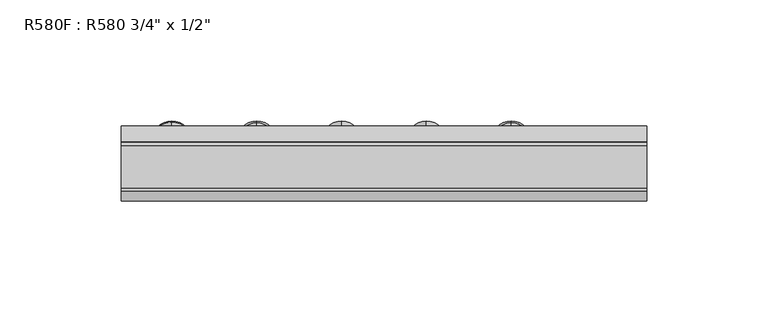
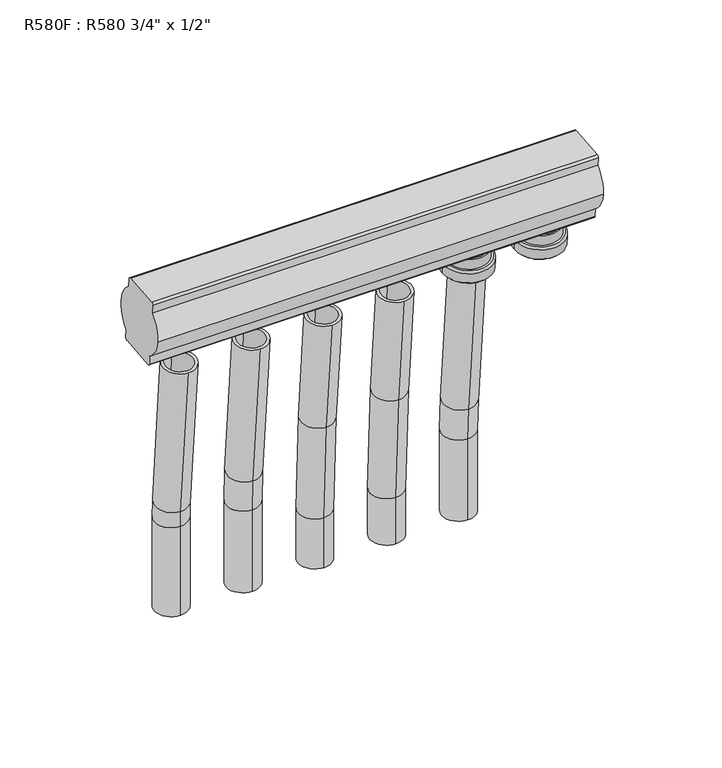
"""IFC4 building model written with IfcOpenShell, lengths in millimetres: proxy geometry."""

from ifc_helpers import new_model, si_unit, point, frame, frame_2d, origin, place, context, project, spatial, polyline, circle_curve, ellipse_curve, trimmed, segment, composite_curve, outline, extrude, source, transform, mapped, element, save
from ifc_brep_helpers import plane_surface, cylinder_surface, revolved_surface, advanced_brep


def proxy_cb0937cd(model_context):
    return source(origin(), model_context, "Body", "SolidModel", [
        advanced_brep(
        [(151.2285785, -21.3915839, 133.4969661), (129.1467712, -21.3915839, 133.4969661), (140.1876748, -21.3915839, 133.4969661), (140.1876748, -22.5299781, 146.5088716), (131.0238972, -22.5299781, 146.5088716), (149.3514525, -22.5299781, 146.5088716), (131.0238972, -22.4423573, 145.5073614), (149.3514525, -22.4423573, 145.5073614), (130.2080738, -22.4423573, 145.5073614), (150.1672759, -22.4423573, 145.5073614), (130.2080738, -21.9869138, 140.3016177), (150.1672759, -21.9869138, 140.3016177), (129.2178204, -21.9869138, 140.3016177), (151.1575293, -21.9869138, 140.3016177), (128.2669737, -21.904042, 139.3543892), (152.108376, -21.904042, 139.3543892), (128.2669737, -21.4682633, 134.3734158), (152.108376, -21.4682633, 134.3734158)],
        [
            (0, 1, circle_curve(frame((140.1876748, -21.3915839, 133.4969661), z_axis=(0.0, 0.08715574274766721, -0.9961946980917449), x_axis=(-0.9999999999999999, 0.0, 0.0)), 11.0409036)),
            (1, 2),
            (2, 0),
            (1, 0, circle_curve(frame((140.1876748, -21.3915839, 133.4969661), z_axis=(0.0, 0.08715574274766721, -0.9961946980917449), x_axis=(-0.9999999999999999, 0.0, 0.0)), 11.0409036)),
            (3, 4),
            (4, 5, circle_curve(frame((140.1876748, -22.5299781, 146.5088716), z_axis=(0.0, -0.08715574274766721, 0.9961946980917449), x_axis=(-0.9999999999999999, 0.0, 0.0)), 9.1637776)),
            (5, 3),
            (5, 4, circle_curve(frame((140.1876748, -22.5299781, 146.5088716), z_axis=(0.0, -0.08715574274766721, 0.9961946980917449), x_axis=(-0.9999999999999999, 0.0, 0.0)), 9.1637776)),
            (4, 6),
            (6, 7, circle_curve(frame((140.1876748, -22.4423573, 145.5073614), z_axis=(0.0, -0.08715574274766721, 0.9961946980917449), x_axis=(-0.9999999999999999, 0.0, 0.0)), 9.1637776)),
            (7, 5),
            (7, 6, circle_curve(frame((140.1876748, -22.4423573, 145.5073614), z_axis=(0.0, -0.08715574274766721, 0.9961946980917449), x_axis=(-0.9999999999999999, 0.0, 0.0)), 9.1637776)),
            (6, 8),
            (8, 9, circle_curve(frame((140.1876748, -22.4423573, 145.5073614), z_axis=(0.0, -0.08715574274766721, 0.9961946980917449), x_axis=(-0.9999999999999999, 0.0, 0.0)), 9.9796011)),
            (9, 7),
            (9, 8, circle_curve(frame((140.1876748, -22.4423573, 145.5073614), z_axis=(0.0, -0.08715574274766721, 0.9961946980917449), x_axis=(-0.9999999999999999, 0.0, 0.0)), 9.9796011)),
            (8, 10),
            (10, 11, circle_curve(frame((140.1876748, -21.9869138, 140.3016177), z_axis=(0.0, -0.08715574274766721, 0.9961946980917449), x_axis=(-0.9999999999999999, 0.0, 0.0)), 9.9796011)),
            (11, 9),
            (11, 10, circle_curve(frame((140.1876748, -21.9869138, 140.3016177), z_axis=(0.0, -0.08715574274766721, 0.9961946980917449), x_axis=(-0.9999999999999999, 0.0, 0.0)), 9.9796011)),
            (10, 12),
            (12, 13, circle_curve(frame((140.1876748, -21.9869138, 140.3016177), z_axis=(0.0, -0.08715574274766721, 0.9961946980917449), x_axis=(-0.9999999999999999, 0.0, 0.0)), 10.9698544)),
            (13, 11),
            (13, 12, circle_curve(frame((140.1876748, -21.9869138, 140.3016177), z_axis=(0.0, -0.08715574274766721, 0.9961946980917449), x_axis=(-0.9999999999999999, 0.0, 0.0)), 10.9698544)),
            (12, 14),
            (14, 15, circle_curve(frame((140.1876748, -21.904042, 139.3543892), z_axis=(0.0, -0.08715574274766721, 0.9961946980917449), x_axis=(-0.9999999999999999, 0.0, 0.0)), 11.9207012)),
            (15, 13),
            (15, 14, circle_curve(frame((140.1876748, -21.904042, 139.3543892), z_axis=(0.0, -0.08715574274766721, 0.9961946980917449), x_axis=(-0.9999999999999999, 0.0, 0.0)), 11.9207012)),
            (14, 16),
            (16, 17, circle_curve(frame((140.1876748, -21.4682633, 134.3734158), z_axis=(0.0, -0.08715574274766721, 0.9961946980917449), x_axis=(-0.9999999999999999, 0.0, 0.0)), 11.9207012)),
            (17, 15),
            (17, 16, circle_curve(frame((140.1876748, -21.4682633, 134.3734158), z_axis=(0.0, -0.08715574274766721, 0.9961946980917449), x_axis=(-0.9999999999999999, 0.0, 0.0)), 11.9207012)),
            (16, 1),
            (0, 17),
        ],
        [
            plane_surface(frame((140.1876748, -21.3915839, 133.4969661), z_axis=(0.0, 0.08715574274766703, -0.9961946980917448), x_axis=(-1.0, 0.0, 0.0))),
            plane_surface(frame((140.1876748, -22.5299781, 146.5088716), z_axis=(0.0, -0.08715574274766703, 0.9961946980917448), x_axis=(-1.0, 0.0, 0.0))),
            cylinder_surface(frame((140.1876748, -23.4015355, 156.4708185), z_axis=(0.0, -0.0871557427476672, 0.9961946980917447), x_axis=(-0.9999999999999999, 0.0, 0.0)), 9.1637776),
            plane_surface(frame((140.1876748, -22.4423573, 145.5073614), z_axis=(0.0, -0.08715574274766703, 0.9961946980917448), x_axis=(-1.0, 0.0, 0.0))),
            cylinder_surface(frame((140.1876748, -23.4015355, 156.4708185), z_axis=(0.0, -0.0871557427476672, 0.9961946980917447), x_axis=(-0.9999999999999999, 0.0, 0.0)), 9.9796011),
            plane_surface(frame((140.1876748, -21.9869138, 140.3016177), z_axis=(0.0, -0.08715574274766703, 0.9961946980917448), x_axis=(-1.0, 0.0, 0.0))),
            revolved_surface(polyline([(128.2669737, -21.904042, 139.3543892), (129.2178204, -21.9869138, 140.3016177)]), (140.1876748, -23.4015355, 156.4708185), (0.0, -0.0871557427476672, 0.9961946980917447)),
            cylinder_surface(frame((140.1876748, -23.4015355, 156.4708185), z_axis=(0.0, -0.0871557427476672, 0.9961946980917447), x_axis=(-0.9999999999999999, 0.0, 0.0)), 11.9207012),
            revolved_surface(polyline([(129.1467712, -21.3915839, 133.4969661), (128.2669737, -21.4682633, 134.3734158)]), (140.1876748, -23.4015355, 156.4708185), (0.0, -0.0871557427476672, 0.9961946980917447)),
        ],
        [
            (0, [[1, 2, 3]]),
            (0, [[4, -3, -2]]),
            (1, [[5, 6, 7]]),
            (1, [[-7, 8, -5]]),
            (2, [[-6, 9, 10, 11]]),
            (2, [[-8, -11, 12, -9]]),
            (3, [[-10, 13, 14, 15]]),
            (3, [[-12, -15, 16, -13]]),
            (4, [[-14, 17, 18, 19]]),
            (4, [[-16, -19, 20, -17]]),
            (5, [[-18, 21, 22, 23]]),
            (5, [[-20, -23, 24, -21]]),
            (6, [[-22, 25, 26, 27]]),
            (6, [[-24, -27, 28, -25]]),
            (7, [[-26, 29, 30, 31]]),
            (7, [[-28, -31, 32, -29]]),
            (8, [[-30, 33, -1, 34]]),
            (8, [[-32, -34, -4, -33]]),
        ],
    ),
        advanced_brep(
        [(186.282739, -21.3915839, 133.4969661), (164.2009317, -21.3915839, 133.4969661), (175.2418354, -21.3915839, 133.4969661), (175.2418354, -22.5299781, 146.5088716), (166.0780577, -22.5299781, 146.5088716), (184.405613, -22.5299781, 146.5088716), (166.0780577, -22.4423573, 145.5073614), (184.405613, -22.4423573, 145.5073614), (165.2622343, -22.4423573, 145.5073614), (185.2214365, -22.4423573, 145.5073614), (165.2622343, -21.9869138, 140.3016177), (185.2214365, -21.9869138, 140.3016177), (164.2719809, -21.9869138, 140.3016177), (186.2116898, -21.9869138, 140.3016177), (163.3211342, -21.904042, 139.3543892), (187.1625365, -21.904042, 139.3543892), (163.3211342, -21.4682633, 134.3734158), (187.1625365, -21.4682633, 134.3734158)],
        [
            (0, 1, circle_curve(frame((175.2418354, -21.3915839, 133.4969661), z_axis=(0.0, 0.08715574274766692, -0.9961946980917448), x_axis=(-1.0, 0.0, 0.0)), 11.0409036)),
            (1, 2),
            (2, 0),
            (1, 0, circle_curve(frame((175.2418354, -21.3915839, 133.4969661), z_axis=(0.0, 0.08715574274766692, -0.9961946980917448), x_axis=(-1.0, 0.0, 0.0)), 11.0409036)),
            (3, 4),
            (4, 5, circle_curve(frame((175.2418354, -22.5299781, 146.5088716), z_axis=(0.0, -0.08715574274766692, 0.9961946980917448), x_axis=(-1.0, 0.0, 0.0)), 9.1637776)),
            (5, 3),
            (5, 4, circle_curve(frame((175.2418354, -22.5299781, 146.5088716), z_axis=(0.0, -0.08715574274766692, 0.9961946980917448), x_axis=(-1.0, 0.0, 0.0)), 9.1637776)),
            (4, 6),
            (6, 7, circle_curve(frame((175.2418354, -22.4423573, 145.5073614), z_axis=(0.0, -0.08715574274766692, 0.9961946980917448), x_axis=(-1.0, 0.0, 0.0)), 9.1637776)),
            (7, 5),
            (7, 6, circle_curve(frame((175.2418354, -22.4423573, 145.5073614), z_axis=(0.0, -0.08715574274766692, 0.9961946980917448), x_axis=(-1.0, 0.0, 0.0)), 9.1637776)),
            (6, 8),
            (8, 9, circle_curve(frame((175.2418354, -22.4423573, 145.5073614), z_axis=(0.0, -0.08715574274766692, 0.9961946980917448), x_axis=(-1.0, 0.0, 0.0)), 9.9796011)),
            (9, 7),
            (9, 8, circle_curve(frame((175.2418354, -22.4423573, 145.5073614), z_axis=(0.0, -0.08715574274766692, 0.9961946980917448), x_axis=(-1.0, 0.0, 0.0)), 9.9796011)),
            (8, 10),
            (10, 11, circle_curve(frame((175.2418354, -21.9869138, 140.3016177), z_axis=(0.0, -0.08715574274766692, 0.9961946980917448), x_axis=(-1.0, 0.0, 0.0)), 9.9796011)),
            (11, 9),
            (11, 10, circle_curve(frame((175.2418354, -21.9869138, 140.3016177), z_axis=(0.0, -0.08715574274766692, 0.9961946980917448), x_axis=(-1.0, 0.0, 0.0)), 9.9796011)),
            (10, 12),
            (12, 13, circle_curve(frame((175.2418354, -21.9869138, 140.3016177), z_axis=(0.0, -0.08715574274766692, 0.9961946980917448), x_axis=(-1.0, 0.0, 0.0)), 10.9698544)),
            (13, 11),
            (13, 12, circle_curve(frame((175.2418354, -21.9869138, 140.3016177), z_axis=(0.0, -0.08715574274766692, 0.9961946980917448), x_axis=(-1.0, 0.0, 0.0)), 10.9698544)),
            (12, 14),
            (14, 15, circle_curve(frame((175.2418354, -21.904042, 139.3543892), z_axis=(0.0, -0.08715574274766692, 0.9961946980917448), x_axis=(-1.0, 0.0, 0.0)), 11.9207012)),
            (15, 13),
            (15, 14, circle_curve(frame((175.2418354, -21.904042, 139.3543892), z_axis=(0.0, -0.08715574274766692, 0.9961946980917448), x_axis=(-1.0, 0.0, 0.0)), 11.9207012)),
            (14, 16),
            (16, 17, circle_curve(frame((175.2418354, -21.4682633, 134.3734158), z_axis=(0.0, -0.08715574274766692, 0.9961946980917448), x_axis=(-1.0, 0.0, 0.0)), 11.9207012)),
            (17, 15),
            (17, 16, circle_curve(frame((175.2418354, -21.4682633, 134.3734158), z_axis=(0.0, -0.08715574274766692, 0.9961946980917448), x_axis=(-1.0, 0.0, 0.0)), 11.9207012)),
            (16, 1),
            (0, 17),
        ],
        [
            plane_surface(frame((175.2418354, -21.3915839, 133.4969661), z_axis=(0.0, 0.08715574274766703, -0.9961946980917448), x_axis=(-1.0, 0.0, 0.0))),
            plane_surface(frame((175.2418354, -22.5299781, 146.5088716), z_axis=(0.0, -0.08715574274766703, 0.9961946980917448), x_axis=(-1.0, 0.0, 0.0))),
            cylinder_surface(frame((175.2418354, -23.4015355, 156.4708185), z_axis=(0.0, -0.08715574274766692, 0.9961946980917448), x_axis=(-1.0, 0.0, 0.0)), 9.1637776),
            plane_surface(frame((175.2418354, -22.4423573, 145.5073614), z_axis=(0.0, -0.08715574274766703, 0.9961946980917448), x_axis=(-1.0, 0.0, 0.0))),
            cylinder_surface(frame((175.2418354, -23.4015355, 156.4708185), z_axis=(0.0, -0.08715574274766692, 0.9961946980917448), x_axis=(-1.0, 0.0, 0.0)), 9.9796011),
            plane_surface(frame((175.2418354, -21.9869138, 140.3016177), z_axis=(0.0, -0.08715574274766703, 0.9961946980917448), x_axis=(-1.0, 0.0, 0.0))),
            revolved_surface(polyline([(163.3211342, -21.904042, 139.3543892), (164.2719809, -21.9869138, 140.3016177)]), (175.2418354, -23.4015355, 156.4708185), (0.0, -0.08715574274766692, 0.9961946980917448)),
            cylinder_surface(frame((175.2418354, -23.4015355, 156.4708185), z_axis=(0.0, -0.08715574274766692, 0.9961946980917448), x_axis=(-1.0, 0.0, 0.0)), 11.9207012),
            revolved_surface(polyline([(164.2009317, -21.3915839, 133.4969661), (163.3211342, -21.4682633, 134.3734158)]), (175.2418354, -23.4015355, 156.4708185), (0.0, -0.08715574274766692, 0.9961946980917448)),
        ],
        [
            (0, [[1, 2, 3]]),
            (0, [[4, -3, -2]]),
            (1, [[5, 6, 7]]),
            (1, [[-7, 8, -5]]),
            (2, [[-6, 9, 10, 11]]),
            (2, [[-8, -11, 12, -9]]),
            (3, [[-10, 13, 14, 15]]),
            (3, [[-12, -15, 16, -13]]),
            (4, [[-14, 17, 18, 19]]),
            (4, [[-16, -19, 20, -17]]),
            (5, [[-18, 21, 22, 23]]),
            (5, [[-20, -23, 24, -21]]),
            (6, [[-22, 25, 26, 27]]),
            (6, [[-24, -27, 28, -25]]),
            (7, [[-26, 29, 30, 31]]),
            (7, [[-28, -31, 32, -29]]),
            (8, [[-30, 33, -1, 34]]),
            (8, [[-32, -34, -4, -33]]),
        ],
    ),
        extrude(outline(composite_curve([segment(trimmed(circle_curve(frame_2d((-24.0062562, 163.382807)), 15.5), [point((-39.447274, 162.031893))], [point((-35.0003641, 174.3089038))], False, "CARTESIAN"), True, "CONTINUOUS"), segment(polyline([(-35.0003641, 174.3089038), (-35.362695, 178.4503648)]), True, "CONTINUOUS"), segment(trimmed(circle_curve(frame_2d((-34.3665003, 178.5375205)), 1.0), [point((-35.362695, 178.4503648))], [point((-34.4536561, 179.5337152))], False, "CARTESIAN"), True, "CONTINUOUS"), segment(polyline([(-34.4536561, 179.5337152), (-16.5221515, 181.1025186)]), True, "CONTINUOUS"), segment(trimmed(circle_curve(frame_2d((-16.4349958, 180.1063239)), 1.0), [point((-16.5221515, 181.1025186))], [point((-15.4388011, 180.1934796))], False, "CARTESIAN"), True, "CONTINUOUS"), segment(polyline([(-15.4388011, 180.1934796), (-15.0764702, 176.0520186)]), True, "CONTINUOUS"), segment(trimmed(circle_curve(frame_2d((-24.0062562, 163.382807)), 15.5), [point((-15.0764702, 176.0520186))], [point((-8.5652383, 164.733721))], False, "CARTESIAN"), True, "CONTINUOUS"), segment(trimmed(circle_curve(frame_2d((-24.0062562, 163.382807)), 15.5), [point((-8.5652383, 164.733721))], [point((-13.0121482, 152.4567103))], False, "CARTESIAN"), True, "CONTINUOUS"), segment(polyline([(-13.0121482, 152.4567103), (-12.6538002, 148.3607743)]), True, "CONTINUOUS"), segment(trimmed(circle_curve(frame_2d((-13.6955199, 148.2696356)), 1.0456989), [point((-12.6538002, 148.3607743))], [point((-13.6043813, 147.2279159))], False, "CARTESIAN"), True, "CONTINUOUS"), segment(polyline([(-13.6043813, 147.2279159), (-31.4973756, 145.6624818)]), True, "CONTINUOUS"), segment(trimmed(circle_curve(frame_2d((-31.5839177, 146.6516616)), 0.9929584), [point((-31.4973756, 145.6624818))], [point((-32.5730975, 146.5651196))], False, "CARTESIAN"), True, "CONTINUOUS"), segment(polyline([(-32.5730975, 146.5651196), (-32.9360421, 150.7135954)]), True, "CONTINUOUS"), segment(trimmed(circle_curve(frame_2d((-24.0062562, 163.382807)), 15.5), [point((-32.9360421, 150.7135954))], [point((-39.447274, 162.031893))], False, "CARTESIAN"), True, "CONTINUOUS")], self_intersect=False)), frame((-21.0, 0.0, 0.0), z_axis=(1.0, 0.0, 0.0), x_axis=(0.0, 1.0, 0.0)), (0.0, 0.0, 1.0), 217.2418354),
        advanced_brep(
        [(0.0, -6.410503, 3.6992363), (0.0, -22.410503, 3.6992363), (0.0, -7.910503, 3.6992363), (0.0, -20.910503, 3.6992363), (0.0, -7.910503, 49.4088639), (0.0, -20.910503, 49.4088639), (0.0, -6.410503, 49.4088639), (0.0, -22.410503, 49.4088639), (0.0, -21.2600139, 57.4139781), (0.0, -8.3094828, 58.5470027), (0.0, -22.7543059, 57.2832445), (0.0, -6.8151908, 58.6777363), (0.0, -13.4220263, 134.194212), (0.0, -29.3611415, 132.7997201), (0.0, -14.9163183, 134.0634784), (0.0, -27.8668494, 132.9304538)],
        [
            (0, 1, circle_curve(frame((0.0, -14.410503, 3.6992363), z_axis=(0.0, 0.0, -1.0), x_axis=(0.0, -1.0, 0.0)), 8.0)),
            (1, 0, circle_curve(frame((0.0, -14.410503, 3.6992363), z_axis=(0.0, 0.0, -1.0), x_axis=(0.0, -1.0, 0.0)), 8.0)),
            (2, 3, circle_curve(frame((0.0, -14.410503, 3.6992363), z_axis=(0.0, 0.0, 1.0), x_axis=(0.0, -1.0, 0.0)), 6.5)),
            (3, 2, circle_curve(frame((0.0, -14.410503, 3.6992363), z_axis=(0.0, 0.0, 1.0), x_axis=(0.0, -1.0, 0.0)), 6.5)),
            (2, 4),
            (4, 5, circle_curve(frame((0.0, -14.410503, 49.4088639), z_axis=(0.0, 0.0, 1.0), x_axis=(0.0, -1.0, 0.0)), 6.5)),
            (5, 3),
            (5, 4, circle_curve(frame((0.0, -14.410503, 49.4088639), z_axis=(0.0, 0.0, 1.0), x_axis=(0.0, -1.0, 0.0)), 6.5)),
            (0, 6),
            (6, 7, circle_curve(frame((0.0, -14.410503, 49.4088639), z_axis=(0.0, 0.0, -1.0), x_axis=(0.0, -1.0, 0.0)), 8.0)),
            (7, 1),
            (7, 6, circle_curve(frame((0.0, -14.410503, 49.4088639), z_axis=(0.0, 0.0, -1.0), x_axis=(0.0, -1.0, 0.0)), 8.0)),
            (8, 5, circle_curve(frame((0.0, -112.7588874, 49.4088639), z_axis=(-1.0, 0.0, 0.0), x_axis=(0.0, 1.0, 0.0)), 91.8483844)),
            (4, 9, circle_curve(frame((0.0, -112.7588874, 49.4088639), z_axis=(1.0, 0.0, 0.0), x_axis=(0.0, 1.0, 0.0)), 104.8483844)),
            (9, 8, circle_curve(frame((0.0, -14.7847483, 57.9804904), z_axis=(0.0, -0.08715574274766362, 0.996194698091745), x_axis=(0.0, -0.996194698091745, -0.08715574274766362)), 6.5)),
            (8, 9, circle_curve(frame((0.0, -14.7847483, 57.9804904), z_axis=(0.0, -0.08715574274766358, 0.996194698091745), x_axis=(0.0, -0.996194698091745, -0.08715574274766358)), 6.5)),
            (10, 7, circle_curve(frame((0.0, -112.7588874, 49.4088639), z_axis=(-1.0, 0.0, 0.0), x_axis=(0.0, 1.0, 0.0)), 90.3483844)),
            (6, 11, circle_curve(frame((0.0, -112.7588874, 49.4088639), z_axis=(1.0, 0.0, 0.0), x_axis=(0.0, 1.0, 0.0)), 106.3483844)),
            (11, 10, circle_curve(frame((0.0, -14.7847483, 57.9804904), z_axis=(0.0, 0.08715574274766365, -0.996194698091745), x_axis=(0.0, -0.996194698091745, -0.08715574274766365)), 8.0)),
            (10, 11, circle_curve(frame((0.0, -14.7847483, 57.9804904), z_axis=(0.0, 0.08715574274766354, -0.996194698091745), x_axis=(0.0, -0.996194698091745, -0.08715574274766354)), 8.0)),
            (12, 13, circle_curve(frame((0.0, -21.3915839, 133.4969661), z_axis=(0.0, -0.08715574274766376, 0.9961946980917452), x_axis=(0.0, -0.996194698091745, -0.08715574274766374)), 8.0)),
            (13, 12, circle_curve(frame((0.0, -21.3915839, 133.4969661), z_axis=(0.0, -0.08715574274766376, 0.9961946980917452), x_axis=(0.0, -0.996194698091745, -0.08715574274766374)), 8.0)),
            (14, 15, circle_curve(frame((0.0, -21.3915839, 133.4969661), z_axis=(0.0, 0.08715574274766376, -0.9961946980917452), x_axis=(0.0, -0.996194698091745, -0.08715574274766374)), 6.5)),
            (15, 14, circle_curve(frame((0.0, -21.3915839, 133.4969661), z_axis=(0.0, 0.08715574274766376, -0.9961946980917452), x_axis=(0.0, -0.996194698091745, -0.08715574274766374)), 6.5)),
            (9, 14),
            (15, 8),
            (11, 12),
            (13, 10),
        ],
        [
            plane_surface(frame((0.0, -14.410503, 3.6992363), z_axis=(0.0, 0.0, -1.0), x_axis=(1.0, 0.0, 0.0))),
            revolved_surface(polyline([(0.0, -20.910503, 49.4088639), (0.0, -20.910503, 3.6992363)]), (0.0, -14.410503, 3.6992363), (0.0, 0.0, 1.0)),
            cylinder_surface(frame((0.0, -14.410503, 3.6992363), z_axis=(0.0, 0.0, -1.0), x_axis=(0.0, -1.0, 0.0)), 8.0),
            revolved_surface(trimmed(ellipse_curve(frame((0.0, -14.410503, 49.4088639), z_axis=(0.0, 0.0, 1.0), x_axis=(0.0, -1.0, 0.0)), 6.5, 6.5), [point((0.0, -7.910503, 49.4088639))], [point((0.0, -20.910503, 49.4088639))], True, "CARTESIAN"), (0.0, -112.7588874, 49.4088639), (1.0, 0.0, 0.0)),
            revolved_surface(trimmed(ellipse_curve(frame((0.0, -14.410503, 49.4088639), z_axis=(0.0, 0.0, 1.0), x_axis=(0.0, -1.0, 0.0)), 6.5, 6.5), [point((0.0, -20.910503, 49.4088639))], [point((0.0, -7.910503, 49.4088639))], True, "CARTESIAN"), (0.0, -112.7588874, 49.4088639), (1.0, 0.0, 0.0)),
            revolved_surface(trimmed(ellipse_curve(frame((0.0, -14.410503, 49.4088639), z_axis=(0.0, 0.0, -1.0), x_axis=(0.0, -1.0, 0.0)), 8.0, 8.0), [point((0.0, -6.410503, 49.4088639))], [point((0.0, -22.410503, 49.4088639))], True, "CARTESIAN"), (0.0, -112.7588874, 49.4088639), (1.0, 0.0, 0.0)),
            revolved_surface(trimmed(ellipse_curve(frame((0.0, -14.410503, 49.4088639), z_axis=(0.0, 0.0, -1.0), x_axis=(0.0, -1.0, 0.0)), 8.0, 8.0), [point((0.0, -22.410503, 49.4088639))], [point((0.0, -6.410503, 49.4088639))], True, "CARTESIAN"), (0.0, -112.7588874, 49.4088639), (1.0, 0.0, 0.0)),
            plane_surface(frame((0.0, -21.3915839, 133.4969661), z_axis=(0.0, -0.08715574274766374, 0.9961946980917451), x_axis=(1.0, 0.0, 0.0))),
            revolved_surface(polyline([(0.0, -27.866849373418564, 132.93045380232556), (0.0, -21.260013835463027, 57.41397804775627)]), (0.0, -14.7847483, 57.9804904), (0.0, -0.08715574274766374, 0.996194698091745)),
            cylinder_surface(frame((0.0, -14.7847483, 57.9804904), z_axis=(0.0, 0.08715574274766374, -0.996194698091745), x_axis=(0.0, -0.996194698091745, -0.08715574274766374)), 8.0),
        ],
        [
            (0, [[1, 2], [3, 4]]),
            (1, [[-3, 5, 6, 7]]),
            (1, [[-4, -7, 8, -5]]),
            (2, [[-1, 9, 10, 11]]),
            (2, [[-2, -11, 12, -9]]),
            (3, [[13, -6, 14, 15]]),
            (4, [[-14, -8, -13, 16]]),
            (5, [[17, -10, 18, 19]]),
            (6, [[-18, -12, -17, 20]]),
            (7, [[21, 22], [23, 24]]),
            (8, [[-15, 25, -24, 26]]),
            (8, [[-16, -26, -23, -25]]),
            (9, [[-19, 27, -22, 28]]),
            (9, [[-20, -28, -21, -27]]),
        ],
    ),
        advanced_brep(
        [(35.0428146, -6.3884632, 3.6992363), (35.0428146, -22.4325429, 3.6992363), (35.0428146, -7.899011, 3.6992363), (35.0428146, -20.9219951, 3.6992363), (35.0428146, -6.3884632, 45.6861316), (35.0428146, -22.4325429, 45.6861316), (35.0428146, -7.899011, 45.6861316), (35.0428146, -20.9219951, 45.6861316), (35.0428146, -23.1007194, 60.9898898), (35.0428146, -7.1176923, 62.3882234), (35.0428146, -21.5959197, 61.1215427), (35.0428146, -8.622492, 62.2565705), (35.0428146, -13.4000703, 134.1961329), (35.0428146, -29.3830975, 132.7977992), (35.0428146, -14.90487, 134.06448), (35.0428146, -27.8782978, 132.9294522)],
        [
            (0, 1, circle_curve(frame((35.0428146, -14.410503, 3.6992363), z_axis=(0.0, 0.0, -1.0), x_axis=(0.0, -1.0, 0.0)), 8.0220399)),
            (1, 0, circle_curve(frame((35.0428146, -14.410503, 3.6992363), z_axis=(0.0, 0.0, -1.0), x_axis=(0.0, -1.0, 0.0)), 8.0220399)),
            (2, 3, circle_curve(frame((35.0428146, -14.410503, 3.6992363), z_axis=(0.0, 0.0, 1.0), x_axis=(0.0, -1.0, 0.0)), 6.5114921)),
            (3, 2, circle_curve(frame((35.0428146, -14.410503, 3.6992363), z_axis=(0.0, 0.0, 1.0), x_axis=(0.0, -1.0, 0.0)), 6.5114921)),
            (0, 4),
            (4, 5, circle_curve(frame((35.0428146, -14.410503, 45.6861316), z_axis=(0.0, 0.0, -1.0), x_axis=(0.0, -1.0, 0.0)), 8.0220399)),
            (5, 1),
            (5, 4, circle_curve(frame((35.0428146, -14.410503, 45.6861316), z_axis=(0.0, 0.0, -1.0), x_axis=(0.0, -1.0, 0.0)), 8.0220399)),
            (2, 6),
            (6, 7, circle_curve(frame((35.0428146, -14.410503, 45.6861316), z_axis=(0.0, 0.0, 1.0), x_axis=(0.0, -1.0, 0.0)), 6.5114921)),
            (7, 3),
            (7, 6, circle_curve(frame((35.0428146, -14.410503, 45.6861316), z_axis=(0.0, 0.0, 1.0), x_axis=(0.0, -1.0, 0.0)), 6.5114921)),
            (8, 5, circle_curve(frame((35.0428146, -198.0234759, 45.6861316), z_axis=(-1.0, 0.0, 0.0), x_axis=(0.0, 1.0, 0.0)), 175.590933)),
            (4, 9, circle_curve(frame((35.0428146, -198.0234759, 45.6861316), z_axis=(1.0, 0.0, 0.0), x_axis=(0.0, 1.0, 0.0)), 191.6350127)),
            (9, 8, circle_curve(frame((35.0428146, -15.1092058, 61.6890566), z_axis=(0.0, 0.08715574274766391, -0.996194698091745), x_axis=(0.0, -0.996194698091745, -0.08715574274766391)), 8.0220399)),
            (8, 9, circle_curve(frame((35.0428146, -15.1092058, 61.6890566), z_axis=(0.0, 0.0871557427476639, -0.996194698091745), x_axis=(0.0, -0.996194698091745, -0.0871557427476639)), 8.0220399)),
            (10, 7, circle_curve(frame((35.0428146, -198.0234759, 45.6861316), z_axis=(-1.0, 0.0, 0.0), x_axis=(0.0, 1.0, 0.0)), 177.1014808)),
            (6, 11, circle_curve(frame((35.0428146, -198.0234759, 45.6861316), z_axis=(1.0, 0.0, 0.0), x_axis=(0.0, 1.0, 0.0)), 190.1244649)),
            (11, 10, circle_curve(frame((35.0428146, -15.1092058, 61.6890566), z_axis=(0.0, -0.08715574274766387, 0.996194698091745), x_axis=(0.0, -0.996194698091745, -0.08715574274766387)), 6.5114921)),
            (10, 11, circle_curve(frame((35.0428146, -15.1092058, 61.6890566), z_axis=(0.0, -0.0871557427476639, 0.996194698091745), x_axis=(0.0, -0.996194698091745, -0.0871557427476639)), 6.5114921)),
            (12, 13, circle_curve(frame((35.0428146, -21.3915839, 133.4969661), z_axis=(0.0, -0.08715574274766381, 0.9961946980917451), x_axis=(0.0, -0.9961946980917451, -0.08715574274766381)), 8.0220399)),
            (13, 12, circle_curve(frame((35.0428146, -21.3915839, 133.4969661), z_axis=(0.0, -0.08715574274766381, 0.9961946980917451), x_axis=(0.0, -0.9961946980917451, -0.08715574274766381)), 8.0220399)),
            (14, 15, circle_curve(frame((35.0428146, -21.3915839, 133.4969661), z_axis=(0.0, 0.08715574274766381, -0.9961946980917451), x_axis=(0.0, -0.9961946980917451, -0.08715574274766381)), 6.5114921)),
            (15, 14, circle_curve(frame((35.0428146, -21.3915839, 133.4969661), z_axis=(0.0, 0.08715574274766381, -0.9961946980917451), x_axis=(0.0, -0.9961946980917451, -0.08715574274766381)), 6.5114921)),
            (9, 12),
            (13, 8),
            (11, 14),
            (15, 10),
        ],
        [
            plane_surface(frame((35.0428146, -14.410503, 3.6992363), z_axis=(0.0, 0.0, -1.0), x_axis=(1.0, 0.0, 0.0))),
            cylinder_surface(frame((35.0428146, -14.410503, 3.6992363), z_axis=(0.0, 0.0, -1.0), x_axis=(0.0, -1.0, 0.0)), 8.0220399),
            revolved_surface(polyline([(35.0428146, -20.9219951, 45.6861316), (35.0428146, -20.9219951, 3.6992363)]), (35.0428146, -14.410503, 3.6992363), (0.0, 0.0, 1.0)),
            revolved_surface(trimmed(ellipse_curve(frame((35.0428146, -14.410503, 45.6861316), z_axis=(0.0, 0.0, -1.0), x_axis=(0.0, -1.0, 0.0)), 8.0220399, 8.0220399), [point((35.0428146, -6.3884632, 45.6861316))], [point((35.0428146, -22.4325429, 45.6861316))], True, "CARTESIAN"), (35.0428146, -198.0234759, 45.6861316), (1.0, 0.0, 0.0)),
            revolved_surface(trimmed(ellipse_curve(frame((35.0428146, -14.410503, 45.6861316), z_axis=(0.0, 0.0, -1.0), x_axis=(0.0, -1.0, 0.0)), 8.0220399, 8.0220399), [point((35.0428146, -22.4325429, 45.6861316))], [point((35.0428146, -6.3884632, 45.6861316))], True, "CARTESIAN"), (35.0428146, -198.0234759, 45.6861316), (1.0, 0.0, 0.0)),
            revolved_surface(trimmed(ellipse_curve(frame((35.0428146, -14.410503, 45.6861316), z_axis=(0.0, 0.0, 1.0), x_axis=(0.0, -1.0, 0.0)), 6.5114921, 6.5114921), [point((35.0428146, -7.899011, 45.6861316))], [point((35.0428146, -20.9219951, 45.6861316))], True, "CARTESIAN"), (35.0428146, -198.0234759, 45.6861316), (1.0, 0.0, 0.0)),
            revolved_surface(trimmed(ellipse_curve(frame((35.0428146, -14.410503, 45.6861316), z_axis=(0.0, 0.0, 1.0), x_axis=(0.0, -1.0, 0.0)), 6.5114921, 6.5114921), [point((35.0428146, -20.9219951, 45.6861316))], [point((35.0428146, -7.899011, 45.6861316))], True, "CARTESIAN"), (35.0428146, -198.0234759, 45.6861316), (1.0, 0.0, 0.0)),
            plane_surface(frame((35.0428146, -21.3915839, 133.4969661), z_axis=(0.0, -0.0871557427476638, 0.9961946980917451), x_axis=(1.0, 0.0, 0.0))),
            cylinder_surface(frame((35.0428146, -15.1092058, 61.6890566), z_axis=(0.0, 0.08715574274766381, -0.9961946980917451), x_axis=(0.0, -0.9961946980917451, -0.08715574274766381)), 8.0220399),
            revolved_surface(polyline([(35.0428146, -27.878297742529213, 132.92945220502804), (35.0428146, -21.595919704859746, 61.12154264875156)]), (35.0428146, -15.1092058, 61.6890566), (0.0, -0.08715574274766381, 0.9961946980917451)),
        ],
        [
            (0, [[1, 2], [3, 4]]),
            (1, [[-1, 5, 6, 7]]),
            (1, [[-2, -7, 8, -5]]),
            (2, [[-3, 9, 10, 11]]),
            (2, [[-4, -11, 12, -9]]),
            (3, [[13, -6, 14, 15]]),
            (4, [[-14, -8, -13, 16]]),
            (5, [[17, -10, 18, 19]]),
            (6, [[-18, -12, -17, 20]]),
            (7, [[21, 22], [23, 24]]),
            (8, [[-15, 25, -22, 26]]),
            (8, [[-16, -26, -21, -25]]),
            (9, [[-19, 27, -24, 28]]),
            (9, [[-20, -28, -23, -27]]),
        ],
    ),
        advanced_brep(
        [(70.0846463, -6.410503, 3.6992363), (70.0846463, -22.410503, 3.6992363), (70.0846463, -7.910503, 3.6992363), (70.0846463, -20.910503, 3.6992363), (70.0846463, -6.410503, 29.3724718), (70.0846463, -22.410503, 29.3724718), (70.0846463, -7.910503, 29.3724718), (70.0846463, -20.910503, 29.3724718), (70.0846463, -24.5005926, 77.243392), (70.0846463, -8.5614774, 78.6378839), (70.0846463, -23.0063005, 77.3741257), (70.0846463, -10.0557694, 78.5071503), (70.0846463, -13.4220263, 134.194212), (70.0846463, -29.3611415, 132.7997201), (70.0846463, -14.9163183, 134.0634784), (70.0846463, -27.8668494, 132.9304538)],
        [
            (0, 1, circle_curve(frame((70.0846463, -14.410503, 3.6992363), z_axis=(0.0, 0.0, -1.0), x_axis=(0.0, -1.0, 0.0)), 8.0)),
            (1, 0, circle_curve(frame((70.0846463, -14.410503, 3.6992363), z_axis=(0.0, 0.0, -1.0), x_axis=(0.0, -1.0, 0.0)), 8.0)),
            (2, 3, circle_curve(frame((70.0846463, -14.410503, 3.6992363), z_axis=(0.0, 0.0, 1.0), x_axis=(0.0, -1.0, 0.0)), 6.5)),
            (3, 2, circle_curve(frame((70.0846463, -14.410503, 3.6992363), z_axis=(0.0, 0.0, 1.0), x_axis=(0.0, -1.0, 0.0)), 6.5)),
            (0, 4),
            (4, 5, circle_curve(frame((70.0846463, -14.410503, 29.3724718), z_axis=(0.0, 0.0, -1.0), x_axis=(0.0, -1.0, 0.0)), 8.0)),
            (5, 1),
            (5, 4, circle_curve(frame((70.0846463, -14.410503, 29.3724718), z_axis=(0.0, 0.0, -1.0), x_axis=(0.0, -1.0, 0.0)), 8.0)),
            (2, 6),
            (6, 7, circle_curve(frame((70.0846463, -14.410503, 29.3724718), z_axis=(0.0, 0.0, 1.0), x_axis=(0.0, -1.0, 0.0)), 6.5)),
            (7, 3),
            (7, 6, circle_curve(frame((70.0846463, -14.410503, 29.3724718), z_axis=(0.0, 0.0, 1.0), x_axis=(0.0, -1.0, 0.0)), 6.5)),
            (8, 5, circle_curve(frame((70.0846463, -571.6677146, 29.3724718), z_axis=(-1.0, 0.0, 0.0), x_axis=(0.0, 1.0, 0.0)), 549.2572116)),
            (4, 9, circle_curve(frame((70.0846463, -571.6677146, 29.3724718), z_axis=(1.0, 0.0, 0.0), x_axis=(0.0, 1.0, 0.0)), 565.2572116)),
            (9, 8, circle_curve(frame((70.0846463, -16.531035, 77.940638), z_axis=(0.0, 0.08715574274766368, -0.996194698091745), x_axis=(0.0, -0.996194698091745, -0.08715574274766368)), 8.0)),
            (8, 9, circle_curve(frame((70.0846463, -16.531035, 77.940638), z_axis=(0.0, 0.08715574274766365, -0.996194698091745), x_axis=(0.0, -0.996194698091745, -0.08715574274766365)), 8.0)),
            (10, 7, circle_curve(frame((70.0846463, -571.6677146, 29.3724718), z_axis=(-1.0, 0.0, 0.0), x_axis=(0.0, 1.0, 0.0)), 550.7572116)),
            (6, 11, circle_curve(frame((70.0846463, -571.6677146, 29.3724718), z_axis=(1.0, 0.0, 0.0), x_axis=(0.0, 1.0, 0.0)), 563.7572116)),
            (11, 10, circle_curve(frame((70.0846463, -16.531035, 77.940638), z_axis=(0.0, -0.08715574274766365, 0.996194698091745), x_axis=(0.0, -0.996194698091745, -0.08715574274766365)), 6.5)),
            (10, 11, circle_curve(frame((70.0846463, -16.531035, 77.940638), z_axis=(0.0, -0.08715574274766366, 0.996194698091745), x_axis=(0.0, -0.996194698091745, -0.08715574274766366)), 6.5)),
            (12, 13, circle_curve(frame((70.0846463, -21.3915839, 133.4969661), z_axis=(0.0, -0.08715574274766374, 0.9961946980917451), x_axis=(0.0, -0.9961946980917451, -0.08715574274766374)), 8.0)),
            (13, 12, circle_curve(frame((70.0846463, -21.3915839, 133.4969661), z_axis=(0.0, -0.08715574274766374, 0.9961946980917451), x_axis=(0.0, -0.9961946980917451, -0.08715574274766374)), 8.0)),
            (14, 15, circle_curve(frame((70.0846463, -21.3915839, 133.4969661), z_axis=(0.0, 0.08715574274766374, -0.9961946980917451), x_axis=(0.0, -0.9961946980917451, -0.08715574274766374)), 6.5)),
            (15, 14, circle_curve(frame((70.0846463, -21.3915839, 133.4969661), z_axis=(0.0, 0.08715574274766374, -0.9961946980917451), x_axis=(0.0, -0.9961946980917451, -0.08715574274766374)), 6.5)),
            (9, 12),
            (13, 8),
            (11, 14),
            (15, 10),
        ],
        [
            plane_surface(frame((70.0846463, -14.410503, 3.6992363), z_axis=(0.0, 0.0, -1.0), x_axis=(1.0, 0.0, 0.0))),
            cylinder_surface(frame((70.0846463, -14.410503, 3.6992363), z_axis=(0.0, 0.0, -1.0), x_axis=(0.0, -1.0, 0.0)), 8.0),
            revolved_surface(polyline([(70.0846463, -20.910503, 29.3724718), (70.0846463, -20.910503, 3.6992363)]), (70.0846463, -14.410503, 3.6992363), (0.0, 0.0, 1.0)),
            revolved_surface(trimmed(ellipse_curve(frame((70.0846463, -14.410503, 29.3724718), z_axis=(0.0, 0.0, -1.0), x_axis=(0.0, -1.0, 0.0)), 8.0, 8.0), [point((70.0846463, -6.410503, 29.3724718))], [point((70.0846463, -22.410503, 29.3724718))], True, "CARTESIAN"), (70.0846463, -571.6677146, 29.3724718), (1.0, 0.0, 0.0)),
            revolved_surface(trimmed(ellipse_curve(frame((70.0846463, -14.410503, 29.3724718), z_axis=(0.0, 0.0, -1.0), x_axis=(0.0, -1.0, 0.0)), 8.0, 8.0), [point((70.0846463, -22.410503, 29.3724718))], [point((70.0846463, -6.410503, 29.3724718))], True, "CARTESIAN"), (70.0846463, -571.6677146, 29.3724718), (1.0, 0.0, 0.0)),
            revolved_surface(trimmed(ellipse_curve(frame((70.0846463, -14.410503, 29.3724718), z_axis=(0.0, 0.0, 1.0), x_axis=(0.0, -1.0, 0.0)), 6.5, 6.5), [point((70.0846463, -7.910503, 29.3724718))], [point((70.0846463, -20.910503, 29.3724718))], True, "CARTESIAN"), (70.0846463, -571.6677146, 29.3724718), (1.0, 0.0, 0.0)),
            revolved_surface(trimmed(ellipse_curve(frame((70.0846463, -14.410503, 29.3724718), z_axis=(0.0, 0.0, 1.0), x_axis=(0.0, -1.0, 0.0)), 6.5, 6.5), [point((70.0846463, -20.910503, 29.3724718))], [point((70.0846463, -7.910503, 29.3724718))], True, "CARTESIAN"), (70.0846463, -571.6677146, 29.3724718), (1.0, 0.0, 0.0)),
            plane_surface(frame((70.0846463, -21.3915839, 133.4969661), z_axis=(0.0, -0.08715574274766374, 0.9961946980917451), x_axis=(1.0, 0.0, 0.0))),
            cylinder_surface(frame((70.0846463, -16.531035, 77.940638), z_axis=(0.0, 0.08715574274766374, -0.9961946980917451), x_axis=(0.0, -0.9961946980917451, -0.08715574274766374)), 8.0),
            revolved_surface(polyline([(70.0846463, -27.866849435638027, 132.9304537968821), (70.0846463, -23.006300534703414, 77.37412563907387)]), (70.0846463, -16.531035, 77.940638), (0.0, -0.08715574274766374, 0.9961946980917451)),
        ],
        [
            (0, [[1, 2], [3, 4]]),
            (1, [[-1, 5, 6, 7]]),
            (1, [[-2, -7, 8, -5]]),
            (2, [[-3, 9, 10, 11]]),
            (2, [[-4, -11, 12, -9]]),
            (3, [[13, -6, 14, 15]]),
            (4, [[-14, -8, -13, 16]]),
            (5, [[17, -10, 18, 19]]),
            (6, [[-18, -12, -17, 20]]),
            (7, [[21, 22], [23, 24]]),
            (8, [[-15, 25, -22, 26]]),
            (8, [[-16, -26, -21, -25]]),
            (9, [[-19, 27, -24, 28]]),
            (9, [[-20, -28, -23, -27]]),
        ],
    ),
        advanced_brep(
        [(105.1405646, -6.410503, 3.6992363), (105.1405646, -22.410503, 3.6992363), (105.1405646, -7.910503, 3.6992363), (105.1405646, -20.910503, 3.6992363), (105.1405646, -6.410503, 27.5062814), (105.1405646, -22.410503, 27.5062814), (105.1405646, -7.910503, 27.5062814), (105.1405646, -20.910503, 27.5062814), (105.1405646, -24.6632418, 79.1024811), (105.1405646, -8.7241266, 80.4969729), (105.1405646, -23.1689497, 79.2332147), (105.1405646, -10.2184187, 80.3662393), (105.1405646, -13.4220263, 134.194212), (105.1405646, -29.3611415, 132.7997201), (105.1405646, -14.9163183, 134.0634784), (105.1405646, -27.8668494, 132.9304538)],
        [
            (0, 1, circle_curve(frame((105.1405646, -14.410503, 3.6992363), z_axis=(0.0, 0.0, -1.0), x_axis=(0.0, -1.0, 0.0)), 8.0)),
            (1, 0, circle_curve(frame((105.1405646, -14.410503, 3.6992363), z_axis=(0.0, 0.0, -1.0), x_axis=(0.0, -1.0, 0.0)), 8.0)),
            (2, 3, circle_curve(frame((105.1405646, -14.410503, 3.6992363), z_axis=(0.0, 0.0, 1.0), x_axis=(0.0, -1.0, 0.0)), 6.5)),
            (3, 2, circle_curve(frame((105.1405646, -14.410503, 3.6992363), z_axis=(0.0, 0.0, 1.0), x_axis=(0.0, -1.0, 0.0)), 6.5)),
            (0, 4),
            (4, 5, circle_curve(frame((105.1405646, -14.410503, 27.5062814), z_axis=(0.0, 0.0, -1.0), x_axis=(0.0, -1.0, 0.0)), 8.0)),
            (5, 1),
            (5, 4, circle_curve(frame((105.1405646, -14.410503, 27.5062814), z_axis=(0.0, 0.0, -1.0), x_axis=(0.0, -1.0, 0.0)), 8.0)),
            (2, 6),
            (6, 7, circle_curve(frame((105.1405646, -14.410503, 27.5062814), z_axis=(0.0, 0.0, 1.0), x_axis=(0.0, -1.0, 0.0)), 6.5)),
            (7, 3),
            (7, 6, circle_curve(frame((105.1405646, -14.410503, 27.5062814), z_axis=(0.0, 0.0, 1.0), x_axis=(0.0, -1.0, 0.0)), 6.5)),
            (8, 5, circle_curve(frame((105.1405646, -614.410503, 27.5062814), z_axis=(-1.0, 0.0, 0.0), x_axis=(0.0, 1.0, 0.0)), 592.0)),
            (4, 9, circle_curve(frame((105.1405646, -614.410503, 27.5062814), z_axis=(1.0, 0.0, 0.0), x_axis=(0.0, 1.0, 0.0)), 608.0)),
            (9, 8, circle_curve(frame((105.1405646, -16.6936842, 79.799727), z_axis=(0.0, 0.08715574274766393, -0.996194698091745), x_axis=(0.0, -0.996194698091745, -0.08715574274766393)), 8.0)),
            (8, 9, circle_curve(frame((105.1405646, -16.6936842, 79.799727), z_axis=(0.0, 0.08715574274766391, -0.996194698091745), x_axis=(0.0, -0.996194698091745, -0.08715574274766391)), 8.0)),
            (10, 7, circle_curve(frame((105.1405646, -614.410503, 27.5062814), z_axis=(-1.0, 0.0, 0.0), x_axis=(0.0, 1.0, 0.0)), 593.5)),
            (6, 11, circle_curve(frame((105.1405646, -614.410503, 27.5062814), z_axis=(1.0, 0.0, 0.0), x_axis=(0.0, 1.0, 0.0)), 606.5)),
            (11, 10, circle_curve(frame((105.1405646, -16.6936842, 79.799727), z_axis=(0.0, -0.08715574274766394, 0.996194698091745), x_axis=(0.0, -0.996194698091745, -0.08715574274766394)), 6.5)),
            (10, 11, circle_curve(frame((105.1405646, -16.6936842, 79.799727), z_axis=(0.0, -0.08715574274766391, 0.996194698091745), x_axis=(0.0, -0.996194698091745, -0.08715574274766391)), 6.5)),
            (12, 13, circle_curve(frame((105.1405646, -21.3915839, 133.4969661), z_axis=(0.0, -0.08715574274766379, 0.9961946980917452), x_axis=(0.0, -0.996194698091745, -0.08715574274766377)), 8.0)),
            (13, 12, circle_curve(frame((105.1405646, -21.3915839, 133.4969661), z_axis=(0.0, -0.08715574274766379, 0.9961946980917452), x_axis=(0.0, -0.996194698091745, -0.08715574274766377)), 8.0)),
            (14, 15, circle_curve(frame((105.1405646, -21.3915839, 133.4969661), z_axis=(0.0, 0.08715574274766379, -0.9961946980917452), x_axis=(0.0, -0.996194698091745, -0.08715574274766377)), 6.5)),
            (15, 14, circle_curve(frame((105.1405646, -21.3915839, 133.4969661), z_axis=(0.0, 0.08715574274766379, -0.9961946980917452), x_axis=(0.0, -0.996194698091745, -0.08715574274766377)), 6.5)),
            (9, 12),
            (13, 8),
            (11, 14),
            (15, 10),
        ],
        [
            plane_surface(frame((105.1405646, -14.410503, 3.6992363), z_axis=(0.0, 0.0, -1.0), x_axis=(1.0, 0.0, 0.0))),
            cylinder_surface(frame((105.1405646, -14.410503, 3.6992363), z_axis=(0.0, 0.0, -1.0), x_axis=(0.0, -1.0, 0.0)), 8.0),
            revolved_surface(polyline([(105.1405646, -20.910503, 27.5062814), (105.1405646, -20.910503, 3.6992363)]), (105.1405646, -14.410503, 3.6992363), (0.0, 0.0, 1.0)),
            revolved_surface(trimmed(ellipse_curve(frame((105.1405646, -14.410503, 27.5062814), z_axis=(0.0, 0.0, -1.0), x_axis=(0.0, -1.0, 0.0)), 8.0, 8.0), [point((105.1405646, -6.410503, 27.5062814))], [point((105.1405646, -22.410503, 27.5062814))], True, "CARTESIAN"), (105.1405646, -614.410503, 27.5062814), (1.0, 0.0, 0.0)),
            revolved_surface(trimmed(ellipse_curve(frame((105.1405646, -14.410503, 27.5062814), z_axis=(0.0, 0.0, -1.0), x_axis=(0.0, -1.0, 0.0)), 8.0, 8.0), [point((105.1405646, -22.410503, 27.5062814))], [point((105.1405646, -6.410503, 27.5062814))], True, "CARTESIAN"), (105.1405646, -614.410503, 27.5062814), (1.0, 0.0, 0.0)),
            revolved_surface(trimmed(ellipse_curve(frame((105.1405646, -14.410503, 27.5062814), z_axis=(0.0, 0.0, 1.0), x_axis=(0.0, -1.0, 0.0)), 6.5, 6.5), [point((105.1405646, -7.910503, 27.5062814))], [point((105.1405646, -20.910503, 27.5062814))], True, "CARTESIAN"), (105.1405646, -614.410503, 27.5062814), (1.0, 0.0, 0.0)),
            revolved_surface(trimmed(ellipse_curve(frame((105.1405646, -14.410503, 27.5062814), z_axis=(0.0, 0.0, 1.0), x_axis=(0.0, -1.0, 0.0)), 6.5, 6.5), [point((105.1405646, -20.910503, 27.5062814))], [point((105.1405646, -7.910503, 27.5062814))], True, "CARTESIAN"), (105.1405646, -614.410503, 27.5062814), (1.0, 0.0, 0.0)),
            plane_surface(frame((105.1405646, -21.3915839, 133.4969661), z_axis=(0.0, -0.08715574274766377, 0.9961946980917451), x_axis=(1.0, 0.0, 0.0))),
            cylinder_surface(frame((105.1405646, -16.6936842, 79.799727), z_axis=(0.0, 0.08715574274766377, -0.996194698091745), x_axis=(0.0, -0.996194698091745, -0.08715574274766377)), 8.0),
            revolved_surface(polyline([(105.1405646, -27.866849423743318, 132.93045379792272), (105.1405646, -23.168949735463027, 79.23321464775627)]), (105.1405646, -16.6936842, 79.799727), (0.0, -0.08715574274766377, 0.996194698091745)),
        ],
        [
            (0, [[1, 2], [3, 4]]),
            (1, [[-1, 5, 6, 7]]),
            (1, [[-2, -7, 8, -5]]),
            (2, [[-3, 9, 10, 11]]),
            (2, [[-4, -11, 12, -9]]),
            (3, [[13, -6, 14, 15]]),
            (4, [[-14, -8, -13, 16]]),
            (5, [[17, -10, 18, 19]]),
            (6, [[-18, -12, -17, 20]]),
            (7, [[21, 22], [23, 24]]),
            (8, [[-15, 25, -22, 26]]),
            (8, [[-16, -26, -21, -25]]),
            (9, [[-19, 27, -24, 28]]),
            (9, [[-20, -28, -23, -27]]),
        ],
    ),
        advanced_brep(
        [(140.1876748, -6.410503, 3.6992363), (140.1876748, -22.410503, 3.6992363), (140.1876748, -7.910503, 3.6992363), (140.1876748, -20.910503, 3.6992363), (140.1876748, -6.410503, 45.4831465), (140.1876748, -22.410503, 45.4831465), (140.1876748, -7.910503, 45.4831465), (140.1876748, -20.910503, 45.4831465), (140.1876748, -23.0964547, 61.1940233), (140.1876748, -7.1573396, 62.5885152), (140.1876748, -21.6021627, 61.3247569), (140.1876748, -8.6516316, 62.4577816), (140.1876748, -13.4220263, 134.194212), (140.1876748, -29.3611415, 132.7997201), (140.1876748, -14.9163183, 134.0634784), (140.1876748, -27.8668494, 132.9304538)],
        [
            (0, 1, circle_curve(frame((140.1876748, -14.410503, 3.6992363), z_axis=(0.0, 0.0, -1.0), x_axis=(0.0, -1.0, 0.0)), 8.0)),
            (1, 0, circle_curve(frame((140.1876748, -14.410503, 3.6992363), z_axis=(0.0, 0.0, -1.0), x_axis=(0.0, -1.0, 0.0)), 8.0)),
            (2, 3, circle_curve(frame((140.1876748, -14.410503, 3.6992363), z_axis=(0.0, 0.0, 1.0), x_axis=(0.0, -1.0, 0.0)), 6.5)),
            (3, 2, circle_curve(frame((140.1876748, -14.410503, 3.6992363), z_axis=(0.0, 0.0, 1.0), x_axis=(0.0, -1.0, 0.0)), 6.5)),
            (0, 4),
            (4, 5, circle_curve(frame((140.1876748, -14.410503, 45.4831465), z_axis=(0.0, 0.0, -1.0), x_axis=(0.0, -1.0, 0.0)), 8.0)),
            (5, 1),
            (5, 4, circle_curve(frame((140.1876748, -14.410503, 45.4831465), z_axis=(0.0, 0.0, -1.0), x_axis=(0.0, -1.0, 0.0)), 8.0)),
            (2, 6),
            (6, 7, circle_curve(frame((140.1876748, -14.410503, 45.4831465), z_axis=(0.0, 0.0, 1.0), x_axis=(0.0, -1.0, 0.0)), 6.5)),
            (7, 3),
            (7, 6, circle_curve(frame((140.1876748, -14.410503, 45.4831465), z_axis=(0.0, 0.0, 1.0), x_axis=(0.0, -1.0, 0.0)), 6.5)),
            (8, 5, circle_curve(frame((140.1876748, -202.6725988, 45.4831465), z_axis=(-1.0, 0.0, 0.0), x_axis=(0.0, 1.0, 0.0)), 180.2620957)),
            (4, 9, circle_curve(frame((140.1876748, -202.6725988, 45.4831465), z_axis=(1.0, 0.0, 0.0), x_axis=(0.0, 1.0, 0.0)), 196.2620957)),
            (9, 8, circle_curve(frame((140.1876748, -15.1268972, 61.8912693), z_axis=(0.0, 0.08715574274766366, -0.996194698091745), x_axis=(0.0, -0.996194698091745, -0.08715574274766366)), 8.0)),
            (8, 9, circle_curve(frame((140.1876748, -15.1268972, 61.8912693), z_axis=(0.0, 0.08715574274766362, -0.996194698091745), x_axis=(0.0, -0.996194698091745, -0.08715574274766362)), 8.0)),
            (10, 7, circle_curve(frame((140.1876748, -202.6725988, 45.4831465), z_axis=(-1.0, 0.0, 0.0), x_axis=(0.0, 1.0, 0.0)), 181.7620957)),
            (6, 11, circle_curve(frame((140.1876748, -202.6725988, 45.4831465), z_axis=(1.0, 0.0, 0.0), x_axis=(0.0, 1.0, 0.0)), 194.7620957)),
            (11, 10, circle_curve(frame((140.1876748, -15.1268972, 61.8912693), z_axis=(0.0, -0.08715574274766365, 0.996194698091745), x_axis=(0.0, -0.996194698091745, -0.08715574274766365)), 6.5)),
            (10, 11, circle_curve(frame((140.1876748, -15.1268972, 61.8912693), z_axis=(0.0, -0.08715574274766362, 0.996194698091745), x_axis=(0.0, -0.996194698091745, -0.08715574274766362)), 6.5)),
            (12, 13, circle_curve(frame((140.1876748, -21.3915839, 133.4969661), z_axis=(0.0, -0.08715574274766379, 0.9961946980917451), x_axis=(0.0, -0.9961946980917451, -0.08715574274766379)), 8.0)),
            (13, 12, circle_curve(frame((140.1876748, -21.3915839, 133.4969661), z_axis=(0.0, -0.08715574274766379, 0.9961946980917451), x_axis=(0.0, -0.9961946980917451, -0.08715574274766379)), 8.0)),
            (14, 15, circle_curve(frame((140.1876748, -21.3915839, 133.4969661), z_axis=(0.0, 0.08715574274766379, -0.9961946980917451), x_axis=(0.0, -0.9961946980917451, -0.08715574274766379)), 6.5)),
            (15, 14, circle_curve(frame((140.1876748, -21.3915839, 133.4969661), z_axis=(0.0, 0.08715574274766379, -0.9961946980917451), x_axis=(0.0, -0.9961946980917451, -0.08715574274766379)), 6.5)),
            (9, 12),
            (13, 8),
            (11, 14),
            (15, 10),
        ],
        [
            plane_surface(frame((140.1876748, -14.410503, 3.6992363), z_axis=(0.0, 0.0, -1.0), x_axis=(1.0, 0.0, 0.0))),
            cylinder_surface(frame((140.1876748, -14.410503, 3.6992363), z_axis=(0.0, 0.0, -1.0), x_axis=(0.0, -1.0, 0.0)), 8.0),
            revolved_surface(polyline([(140.1876748, -20.910503, 45.4831465), (140.1876748, -20.910503, 3.6992363)]), (140.1876748, -14.410503, 3.6992363), (0.0, 0.0, 1.0)),
            revolved_surface(trimmed(ellipse_curve(frame((140.1876748, -14.410503, 45.4831465), z_axis=(0.0, 0.0, -1.0), x_axis=(0.0, -1.0, 0.0)), 8.0, 8.0), [point((140.1876748, -6.410503, 45.4831465))], [point((140.1876748, -22.410503, 45.4831465))], True, "CARTESIAN"), (140.1876748, -202.6725988, 45.4831465), (1.0, 0.0, 0.0)),
            revolved_surface(trimmed(ellipse_curve(frame((140.1876748, -14.410503, 45.4831465), z_axis=(0.0, 0.0, -1.0), x_axis=(0.0, -1.0, 0.0)), 8.0, 8.0), [point((140.1876748, -22.410503, 45.4831465))], [point((140.1876748, -6.410503, 45.4831465))], True, "CARTESIAN"), (140.1876748, -202.6725988, 45.4831465), (1.0, 0.0, 0.0)),
            revolved_surface(trimmed(ellipse_curve(frame((140.1876748, -14.410503, 45.4831465), z_axis=(0.0, 0.0, 1.0), x_axis=(0.0, -1.0, 0.0)), 6.5, 6.5), [point((140.1876748, -7.910503, 45.4831465))], [point((140.1876748, -20.910503, 45.4831465))], True, "CARTESIAN"), (140.1876748, -202.6725988, 45.4831465), (1.0, 0.0, 0.0)),
            revolved_surface(trimmed(ellipse_curve(frame((140.1876748, -14.410503, 45.4831465), z_axis=(0.0, 0.0, 1.0), x_axis=(0.0, -1.0, 0.0)), 6.5, 6.5), [point((140.1876748, -20.910503, 45.4831465))], [point((140.1876748, -7.910503, 45.4831465))], True, "CARTESIAN"), (140.1876748, -202.6725988, 45.4831465), (1.0, 0.0, 0.0)),
            plane_surface(frame((140.1876748, -21.3915839, 133.4969661), z_axis=(0.0, -0.08715574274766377, 0.9961946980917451), x_axis=(1.0, 0.0, 0.0))),
            cylinder_surface(frame((140.1876748, -15.1268972, 61.8912693), z_axis=(0.0, 0.08715574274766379, -0.9961946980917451), x_axis=(0.0, -0.9961946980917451, -0.08715574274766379)), 8.0),
            revolved_surface(polyline([(140.1876748, -27.866849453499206, 132.93045379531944), (140.1876748, -21.60216273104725, 61.32475689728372)]), (140.1876748, -15.1268972, 61.8912693), (0.0, -0.08715574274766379, 0.9961946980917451)),
        ],
        [
            (0, [[1, 2], [3, 4]]),
            (1, [[-1, 5, 6, 7]]),
            (1, [[-2, -7, 8, -5]]),
            (2, [[-3, 9, 10, 11]]),
            (2, [[-4, -11, 12, -9]]),
            (3, [[13, -6, 14, 15]]),
            (4, [[-14, -8, -13, 16]]),
            (5, [[17, -10, 18, 19]]),
            (6, [[-18, -12, -17, 20]]),
            (7, [[21, 22], [23, 24]]),
            (8, [[-15, 25, -22, 26]]),
            (8, [[-16, -26, -21, -25]]),
            (9, [[-19, 27, -24, 28]]),
            (9, [[-20, -28, -23, -27]]),
        ],
    ),
    ])


if __name__ == "__main__":
    model = new_model("IFC4")
    model_context = context("Model", 3, world=origin())
    ifc_project = project(units=[si_unit("LENGTHUNIT", "METRE", prefix="MILLI")], contexts=[model_context])
    site = spatial("IfcSite", under=ifc_project)
    building = spatial("IfcBuilding", under=site)
    placement = place(None, origin())
    proxy_shape = proxy_cb0937cd(model_context)
    element("IfcBuildingElementProxy", 1, Name="R580F : R580 3/4\" x 1/2\"", ObjectType="R580F : R580 3/4\" x 1/2\"", at=placement, inside=building, context=model_context, shape_type="MappedRepresentation", body=[
        mapped(proxy_shape, transform((0.0, 0.0, 0.0), x_axis=(1.0, 0.0, 0.0), y_axis=(0.0, 1.0, 0.0), z_axis=(0.0, 0.0, 1.0))),
    ])
    save(model, "model.ifc")
